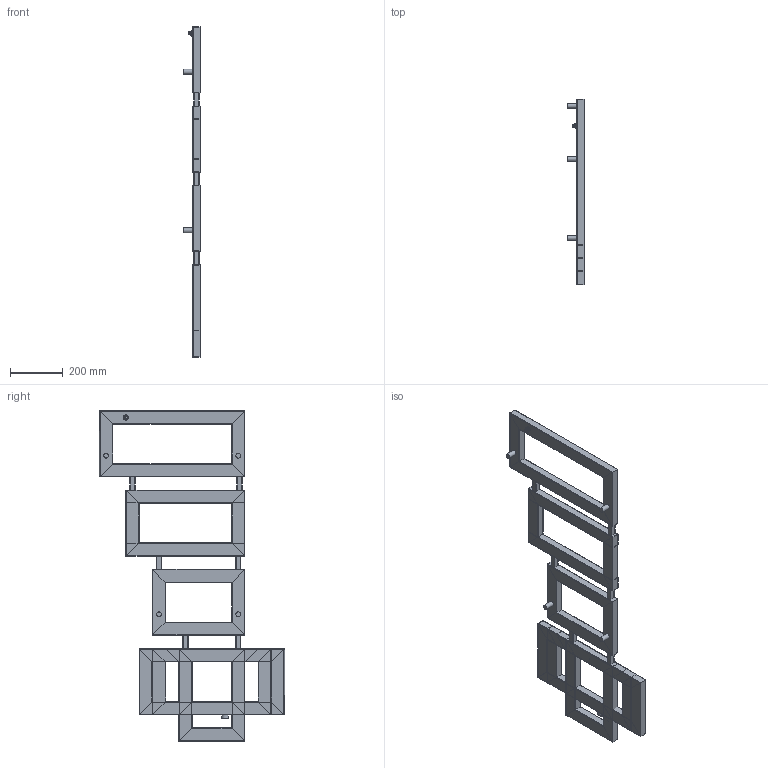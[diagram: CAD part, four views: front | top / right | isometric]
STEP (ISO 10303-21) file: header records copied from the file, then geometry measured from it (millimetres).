
FILE_DESCRIPTION( ( 'Unknown' ), '1' );
FILE_NAME( 'D:/RYSUNKI/RYSUNKI SOLID/SEJWAL/NOWE/PROFILE/KOMODO/KOMODO.stp', 'Unknown', ( 'Unknown' ), ( 'Unknown' ), 'XStep 1.0', 'Unknown', ' ' );
FILE_SCHEMA( ( 'automotive_design' ) );
Length unit declared in the file: millimetre
Products named in the file (13): Assem1; Assem2; Assem3; Assem4; Assem5; P450; P250; P550; P350; P50; PRZY｣ACZ; MOCOWANIE; ODPOWIETRZNIK
Bounding box: 65 x 700 x 1250 mm (x, y, z)
Volume: 3247491.9 mm3; surface area: 3244637.9 mm2
Topology: 53 solids, 53 shells, 777 faces, 2002 edges, 1335 vertices
Faces by surface type: plane 454, cylinder 307, torus 14, cone 2
Full cylindrical faces by diameter (mm): 4.066 x2, 18 x5, 20 x2, 21.49 x3, 26 x3
Entity records: 5986 total; most frequent: CARTESIAN_POINT 1912, DIRECTION 798, ORIENTED_EDGE 752, EDGE_CURVE 376, AXIS2_PLACEMENT_3D 299, VERTEX_POINT 257, LINE 200, VECTOR 200
